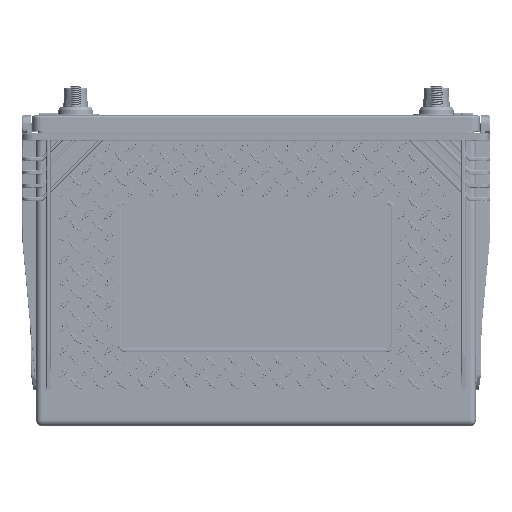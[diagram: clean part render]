
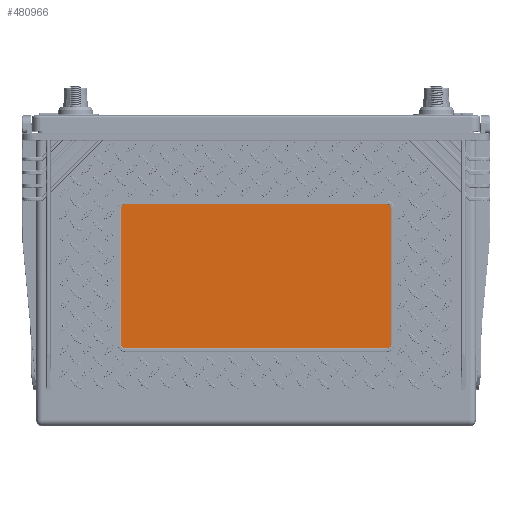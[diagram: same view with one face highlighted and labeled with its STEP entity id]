
A CAD part, top view. The second image highlights one B-rep face of the part: STEP entity #480966.
In plain terms, the highlighted planar face has unit normal (0, -0.001, 1).
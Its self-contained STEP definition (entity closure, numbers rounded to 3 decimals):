
#1666 = CARTESIAN_POINT ( 'NONE',  ( -6.096, 0., 3.25 ) ) ;
#18645 = EDGE_CURVE ( 'NONE', #91326, #343601, #236908, .T. ) ;
#22240 = DIRECTION ( 'NONE',  ( 0., -1., -0.001 ) ) ;
#23666 = VECTOR ( 'NONE', #899449, 39.37 ) ;
#86288 = CARTESIAN_POINT ( 'NONE',  ( -3.625, 6.147, 3.256 ) ) ;
#89967 = DIRECTION ( 'NONE',  ( 0., 1., 0.001 ) ) ;
#91326 = VERTEX_POINT ( 'NONE', #568978 ) ;
#96093 = EDGE_CURVE ( 'NONE', #784133, #91326, #104045, .T. ) ;
#104045 = LINE ( 'NONE', #398110, #23666 ) ;
#108988 = CARTESIAN_POINT ( 'NONE',  ( -6.096, 6.147, 3.256 ) ) ;
#116349 = DIRECTION ( 'NONE',  ( 0., -0.001, 1. ) ) ;
#146345 = PLANE ( 'NONE',  #222571 ) ;
#162565 = DIRECTION ( 'NONE',  ( 0., -1., -0.001 ) ) ;
#196192 = ORIENTED_EDGE ( 'NONE', *, *, #18645, .T. ) ;
#216739 = VERTEX_POINT ( 'NONE', #86288 ) ;
#222571 = AXIS2_PLACEMENT_3D ( 'NONE', #1666, #522171, #445040 ) ;
#223527 = CIRCLE ( 'NONE', #931478, 0.115 ) ;
#224944 = DIRECTION ( 'NONE',  ( 0., -0.001, 1. ) ) ;
#236908 = CIRCLE ( 'NONE', #344963, 0.115 ) ;
#248909 = LINE ( 'NONE', #682716, #390036 ) ;
#289101 = CARTESIAN_POINT ( 'NONE',  ( -3.74, 0., 3.25 ) ) ;
#293800 = DIRECTION ( 'NONE',  ( 0., -1., -0.001 ) ) ;
#298995 = CARTESIAN_POINT ( 'NONE',  ( -3.625, 2.262, 3.252 ) ) ;
#311941 = DIRECTION ( 'NONE',  ( 0., -0.001, 1. ) ) ;
#316486 = LINE ( 'NONE', #108988, #570025 ) ;
#338105 = DIRECTION ( 'NONE',  ( 0., -1., -0.001 ) ) ;
#343601 = VERTEX_POINT ( 'NONE', #686992 ) ;
#344963 = AXIS2_PLACEMENT_3D ( 'NONE', #909352, #311941, #162565 ) ;
#345804 = AXIS2_PLACEMENT_3D ( 'NONE', #298995, #434049, #371223 ) ;
#361341 = LINE ( 'NONE', #289101, #592067 ) ;
#371223 = DIRECTION ( 'NONE',  ( 0., -1., -0.001 ) ) ;
#374889 = EDGE_LOOP ( 'NONE', ( #699075, #923531, #822632, #613071, #515212, #196192, #450200, #742225 ) ) ;
#376737 = VERTEX_POINT ( 'NONE', #770710 ) ;
#381304 = EDGE_CURVE ( 'NONE', #343601, #376737, #248909, .T. ) ;
#390036 = VECTOR ( 'NONE', #89967, 39.37 ) ;
#398110 = CARTESIAN_POINT ( 'NONE',  ( -6.096, 2.146, 3.252 ) ) ;
#400422 = EDGE_CURVE ( 'NONE', #534410, #784133, #946425, .T. ) ;
#406851 = EDGE_CURVE ( 'NONE', #376737, #948647, #831916, .T. ) ;
#416394 = AXIS2_PLACEMENT_3D ( 'NONE', #885192, #224944, #22240 ) ;
#434049 = DIRECTION ( 'NONE',  ( 0., -0.001, 1. ) ) ;
#445040 = DIRECTION ( 'NONE',  ( 0., -1., -0.001 ) ) ;
#450200 = ORIENTED_EDGE ( 'NONE', *, *, #381304, .T. ) ;
#480966 = ADVANCED_FACE ( 'NONE', ( #743803 ), #146345, .T. ) ;
#515212 = ORIENTED_EDGE ( 'NONE', *, *, #96093, .T. ) ;
#522171 = DIRECTION ( 'NONE',  ( 0., -0.001, 1. ) ) ;
#534410 = VERTEX_POINT ( 'NONE', #932683 ) ;
#551360 = EDGE_CURVE ( 'NONE', #216739, #697543, #223527, .T. ) ;
#568978 = CARTESIAN_POINT ( 'NONE',  ( 3.625, 2.146, 3.252 ) ) ;
#570025 = VECTOR ( 'NONE', #832043, 39.37 ) ;
#572317 = CARTESIAN_POINT ( 'NONE',  ( -3.74, 6.032, 3.256 ) ) ;
#579273 = EDGE_CURVE ( 'NONE', #697543, #534410, #361341, .T. ) ;
#592067 = VECTOR ( 'NONE', #293800, 39.37 ) ;
#613071 = ORIENTED_EDGE ( 'NONE', *, *, #400422, .T. ) ;
#649478 = CARTESIAN_POINT ( 'NONE',  ( 3.625, 6.147, 3.256 ) ) ;
#682716 = CARTESIAN_POINT ( 'NONE',  ( 3.74, 0., 3.25 ) ) ;
#686992 = CARTESIAN_POINT ( 'NONE',  ( 3.74, 2.262, 3.252 ) ) ;
#697543 = VERTEX_POINT ( 'NONE', #572317 ) ;
#699075 = ORIENTED_EDGE ( 'NONE', *, *, #905673, .T. ) ;
#726929 = CARTESIAN_POINT ( 'NONE',  ( -3.625, 2.146, 3.252 ) ) ;
#742225 = ORIENTED_EDGE ( 'NONE', *, *, #406851, .T. ) ;
#743803 = FACE_OUTER_BOUND ( 'NONE', #374889, .T. ) ;
#770710 = CARTESIAN_POINT ( 'NONE',  ( 3.74, 6.032, 3.256 ) ) ;
#784133 = VERTEX_POINT ( 'NONE', #726929 ) ;
#790831 = CARTESIAN_POINT ( 'NONE',  ( -3.625, 6.032, 3.256 ) ) ;
#822632 = ORIENTED_EDGE ( 'NONE', *, *, #579273, .T. ) ;
#831916 = CIRCLE ( 'NONE', #416394, 0.115 ) ;
#832043 = DIRECTION ( 'NONE',  ( -1., 0., 0. ) ) ;
#885192 = CARTESIAN_POINT ( 'NONE',  ( 3.625, 6.032, 3.256 ) ) ;
#899449 = DIRECTION ( 'NONE',  ( 1., 0., 0. ) ) ;
#905673 = EDGE_CURVE ( 'NONE', #948647, #216739, #316486, .T. ) ;
#909352 = CARTESIAN_POINT ( 'NONE',  ( 3.625, 2.262, 3.252 ) ) ;
#923531 = ORIENTED_EDGE ( 'NONE', *, *, #551360, .T. ) ;
#931478 = AXIS2_PLACEMENT_3D ( 'NONE', #790831, #116349, #338105 ) ;
#932683 = CARTESIAN_POINT ( 'NONE',  ( -3.74, 2.262, 3.252 ) ) ;
#946425 = CIRCLE ( 'NONE', #345804, 0.115 ) ;
#948647 = VERTEX_POINT ( 'NONE', #649478 ) ;
